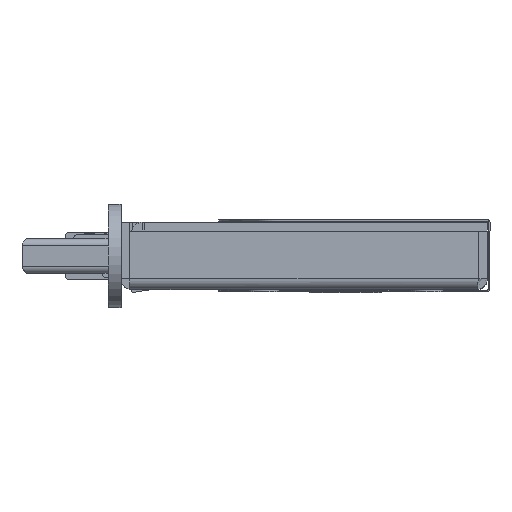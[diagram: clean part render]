
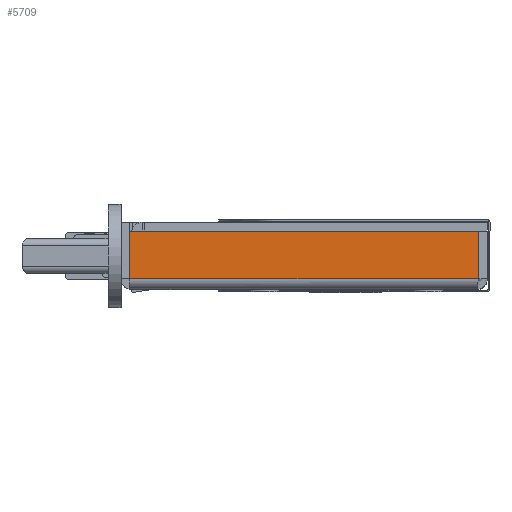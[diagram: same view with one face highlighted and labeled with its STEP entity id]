
A CAD part, front view. The second image highlights one B-rep face of the part: STEP entity #5709.
In plain terms, the highlighted planar face has unit normal (0, -1, 0).
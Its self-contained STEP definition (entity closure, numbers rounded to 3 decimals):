
#530 = VECTOR ( 'NONE', #10553, 1000. ) ;
#660 = EDGE_CURVE ( 'NONE', #11744, #15702, #18040, .T. ) ;
#725 = DIRECTION ( 'NONE',  ( -1., 0., 0. ) ) ;
#790 = ORIENTED_EDGE ( 'NONE', *, *, #9594, .T. ) ;
#953 = DIRECTION ( 'NONE',  ( 0., 0., 1. ) ) ;
#972 = LINE ( 'NONE', #3498, #530 ) ;
#1119 = EDGE_CURVE ( 'NONE', #7017, #11744, #15141, .T. ) ;
#1349 = CARTESIAN_POINT ( 'NONE',  ( -50., -102., 13.6 ) ) ;
#1637 = ORIENTED_EDGE ( 'NONE', *, *, #12884, .F. ) ;
#2253 = VECTOR ( 'NONE', #11564, 1000. ) ;
#3093 = CARTESIAN_POINT ( 'NONE',  ( -50., -102., 2.5 ) ) ;
#3437 = CARTESIAN_POINT ( 'NONE',  ( -50., -102., 2.5 ) ) ;
#3498 = CARTESIAN_POINT ( 'NONE',  ( -50., -102., 13.6 ) ) ;
#3556 = CARTESIAN_POINT ( 'NONE',  ( 30.859, -102., 13.6 ) ) ;
#3932 = VERTEX_POINT ( 'NONE', #3437 ) ;
#5709 = ADVANCED_FACE ( 'NONE', ( #8956 ), #12217, .F. ) ;
#7017 = VERTEX_POINT ( 'NONE', #16875 ) ;
#7217 = AXIS2_PLACEMENT_3D ( 'NONE', #16485, #9405, #953 ) ;
#8087 = EDGE_LOOP ( 'NONE', ( #1637, #14568, #12270, #790 ) ) ;
#8869 = CARTESIAN_POINT ( 'NONE',  ( 30.859, -102., 13.6 ) ) ;
#8956 = FACE_OUTER_BOUND ( 'NONE', #8087, .T. ) ;
#9405 = DIRECTION ( 'NONE',  ( 0., 1., 0. ) ) ;
#9594 = EDGE_CURVE ( 'NONE', #15702, #3932, #972, .T. ) ;
#10518 = VECTOR ( 'NONE', #725, 1000. ) ;
#10553 = DIRECTION ( 'NONE',  ( 0., 0., -1. ) ) ;
#10600 = DIRECTION ( 'NONE',  ( 0., 0., 1. ) ) ;
#10610 = CARTESIAN_POINT ( 'NONE',  ( -50., -102., 13.6 ) ) ;
#11564 = DIRECTION ( 'NONE',  ( -1., 0., 0. ) ) ;
#11744 = VERTEX_POINT ( 'NONE', #8869 ) ;
#12217 = PLANE ( 'NONE',  #7217 ) ;
#12270 = ORIENTED_EDGE ( 'NONE', *, *, #660, .T. ) ;
#12884 = EDGE_CURVE ( 'NONE', #7017, #3932, #16862, .T. ) ;
#14568 = ORIENTED_EDGE ( 'NONE', *, *, #1119, .T. ) ;
#15141 = LINE ( 'NONE', #3556, #18020 ) ;
#15702 = VERTEX_POINT ( 'NONE', #1349 ) ;
#16485 = CARTESIAN_POINT ( 'NONE',  ( -50., -102., 13.6 ) ) ;
#16862 = LINE ( 'NONE', #3093, #2253 ) ;
#16875 = CARTESIAN_POINT ( 'NONE',  ( 30.859, -102., 2.5 ) ) ;
#18020 = VECTOR ( 'NONE', #10600, 1000. ) ;
#18040 = LINE ( 'NONE', #10610, #10518 ) ;
